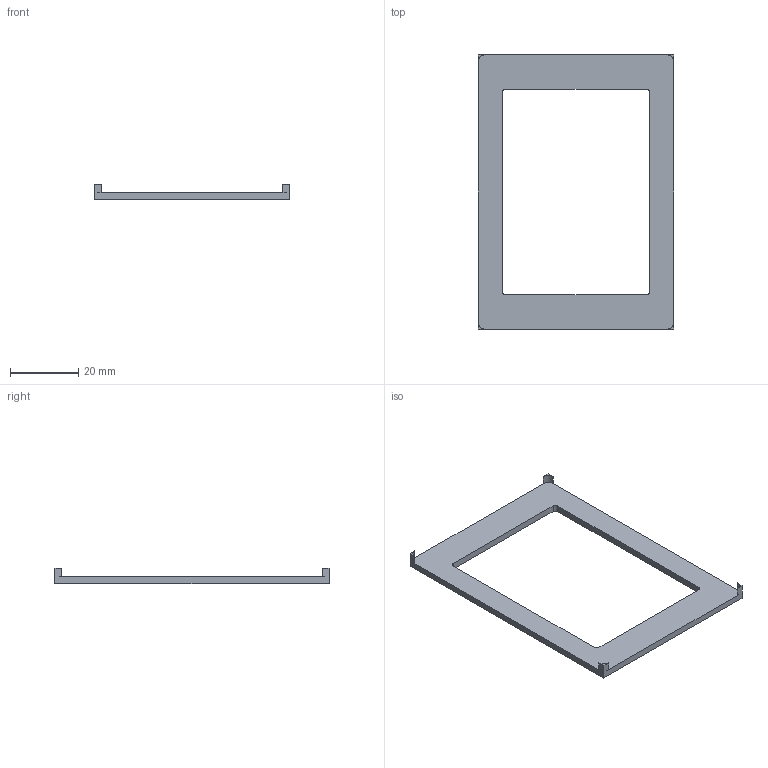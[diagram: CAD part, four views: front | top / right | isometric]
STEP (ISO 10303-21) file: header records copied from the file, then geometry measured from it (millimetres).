
FILE_DESCRIPTION(('Open CASCADE Model'),'2;1');
FILE_NAME('Open CASCADE Shape Model','2026-05-31T19:44:31',('Author'),( 'Open CASCADE'),'Open CASCADE STEP processor 7.6','Open CASCADE 7.6' ,'Unknown');
FILE_SCHEMA(('AP242_MANAGED_MODEL_BASED_3D_ENGINEERING_MIM_LF. {1 0 10303 442 1 1 4 }'));
Length unit declared in the file: millimetre
Products named in the file (1): Open CASCADE STEP translator 7.6 16
Bounding box: 57.1 x 80.1 x 4.5 mm (x, y, z)
Volume: 3977.1 mm3; surface area: 4998.1 mm2
Topology: 1 solids, 1 shells, 22 faces, 60 edges, 40 vertices
Faces by surface type: plane 14, cylinder 8
Entity records: 1530 total; most frequent: CARTESIAN_POINT 315, DIRECTION 230, LINE 148, VECTOR 148, ORIENTED_EDGE 120, PCURVE 120, DEFINITIONAL_REPRESENTATION 120, EDGE_CURVE 60
